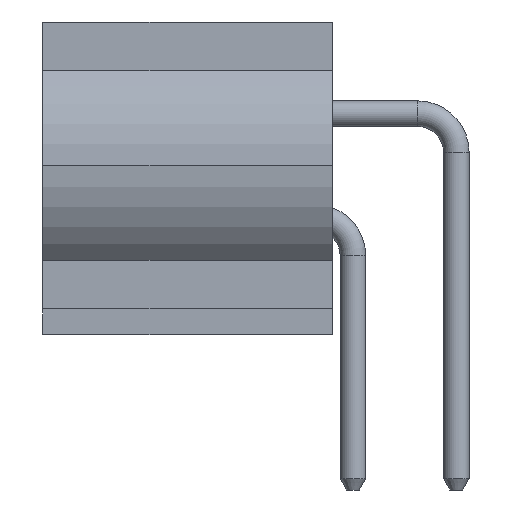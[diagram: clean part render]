
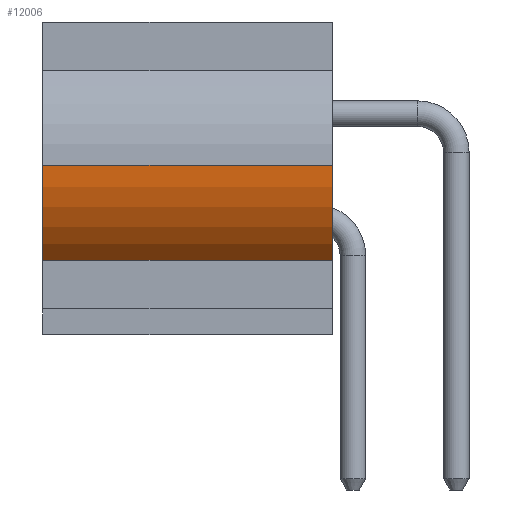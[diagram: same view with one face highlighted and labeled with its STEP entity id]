
A CAD part, left-side view. The second image highlights one B-rep face of the part: STEP entity #12006.
In plain terms, the highlighted cylindrical face has radius 2.5 mm (diameter 5 mm), a partial arc.
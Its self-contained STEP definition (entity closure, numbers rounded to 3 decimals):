
#1842=EDGE_CURVE('',#5440,#5441,#5442,.T.);
#1844=EDGE_CURVE('',#5441,#5444,#5445,.T.);
#1846=EDGE_CURVE('',#5447,#5444,#5448,.T.);
#5440=VERTEX_POINT('',#10189);
#5441=VERTEX_POINT('',#10190);
#5442=CIRCLE('',#10191,2.5);
#5444=VERTEX_POINT('',#10194);
#5445=LINE('',#10195,#10196);
#5447=VERTEX_POINT('',#10199);
#5448=CIRCLE('',#10200,2.5);
#10189=CARTESIAN_POINT('',(-13.0,3.4,0.));
#10190=CARTESIAN_POINT('',(-12.2,3.4,-1.833));
#10191=AXIS2_PLACEMENT_3D('',#22166,#22167,#22168);
#10194=CARTESIAN_POINT('',(-12.2,-2.2,-1.833));
#10195=CARTESIAN_POINT('',(-12.2,3.4,-1.833));
#10196=VECTOR('',#22169,5.6);
#10199=CARTESIAN_POINT('',(-13.0,-2.2,0.));
#10200=AXIS2_PLACEMENT_3D('',#22170,#22171,#22172);
#12006=ADVANCED_FACE('',(#22860),#22861,.T.);
#22166=CARTESIAN_POINT('',(-10.5,3.4,0.0));
#22167=DIRECTION('',(0.0,-1.0,0.0));
#22168=DIRECTION('',(-0.68,0.0,0.733));
#22169=DIRECTION('',(0.0,-1.0,0.0));
#22170=CARTESIAN_POINT('',(-10.5,-2.2,0.0));
#22171=DIRECTION('',(0.0,-1.0,0.0));
#22172=DIRECTION('',(-0.68,0.0,0.733));
#22860=FACE_OUTER_BOUND('',#27185,.T.);
#22861=CYLINDRICAL_SURFACE('',#27186,2.5);
#27185=EDGE_LOOP('',(#33282,#33283,#33284,#33285));
#27186=AXIS2_PLACEMENT_3D('',#33286,#33287,#33288);
#33282=ORIENTED_EDGE('',*,*,#37576,.F.);
#33283=ORIENTED_EDGE('',*,*,#1842,.T.);
#33284=ORIENTED_EDGE('',*,*,#1844,.T.);
#33285=ORIENTED_EDGE('',*,*,#1846,.F.);
#33286=CARTESIAN_POINT('',(-10.5,3.4,0.0));
#33287=DIRECTION('',(0.0,1.0,-0.0));
#33288=DIRECTION('',(-1.0,0.0,0.0));
#37576=EDGE_CURVE('',#5440,#5447,#37744,.T.);
#37744=LINE('',#37750,#37751);
#37750=CARTESIAN_POINT('',(-13.0,0.6,0.));
#37751=VECTOR('',#37762,1.0);
#37762=DIRECTION('',(-0.0,-1.0,-0.0));
